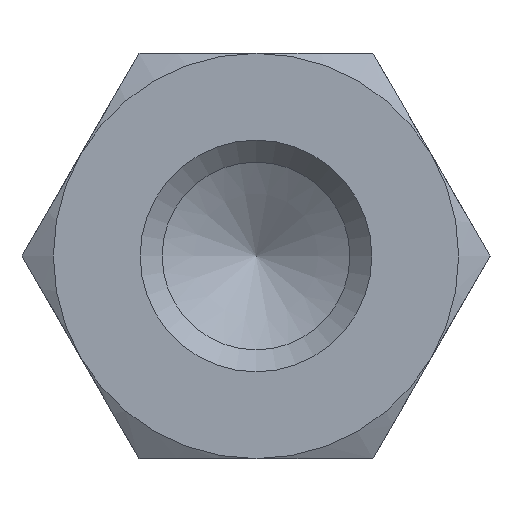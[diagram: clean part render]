
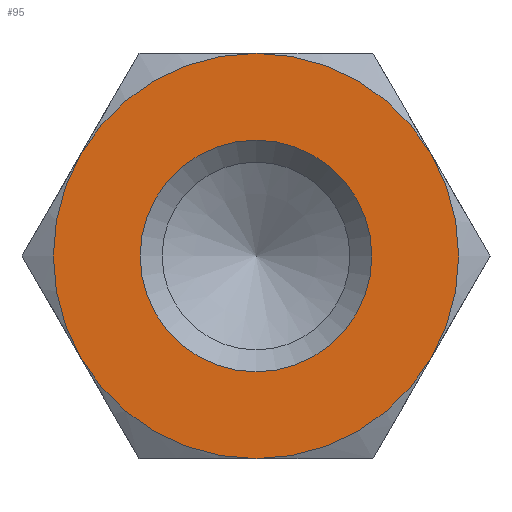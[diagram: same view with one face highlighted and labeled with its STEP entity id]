
A CAD part, left-side view. The second image highlights one B-rep face of the part: STEP entity #95.
In plain terms, the highlighted planar face has unit normal (-1, 0, 0).
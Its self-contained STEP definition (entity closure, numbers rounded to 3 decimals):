
#95 = ADVANCED_FACE( '', ( #147, #148 ), #149, .F. );
#147 = FACE_OUTER_BOUND( '', #206, .T. );
#148 = FACE_BOUND( '', #207, .T. );
#149 = PLANE( '', #208 );
#206 = EDGE_LOOP( '', ( #356, #357, #358, #359, #360, #361 ) );
#207 = EDGE_LOOP( '', ( #362 ) );
#208 = AXIS2_PLACEMENT_3D( '', #363, #364, #365 );
#356 = ORIENTED_EDGE( '', *, *, #440, .F. );
#357 = ORIENTED_EDGE( '', *, *, #425, .F. );
#358 = ORIENTED_EDGE( '', *, *, #441, .F. );
#359 = ORIENTED_EDGE( '', *, *, #437, .F. );
#360 = ORIENTED_EDGE( '', *, *, #442, .F. );
#361 = ORIENTED_EDGE( '', *, *, #443, .F. );
#362 = ORIENTED_EDGE( '', *, *, #439, .T. );
#363 = CARTESIAN_POINT( '', ( -20., 0., 0. ) );
#364 = DIRECTION( '', ( 1., 0., 0. ) );
#365 = DIRECTION( '', ( 0., 0., -1. ) );
#425 = EDGE_CURVE( '', #495, #493, #497, .T. );
#437 = EDGE_CURVE( '', #447, #506, #513, .T. );
#439 = EDGE_CURVE( '', #516, #516, #517, .T. );
#440 = EDGE_CURVE( '', #493, #486, #518, .T. );
#441 = EDGE_CURVE( '', #506, #495, #519, .T. );
#442 = EDGE_CURVE( '', #481, #447, #520, .T. );
#443 = EDGE_CURVE( '', #486, #481, #521, .T. );
#447 = VERTEX_POINT( '', #525 );
#481 = VERTEX_POINT( '', #595 );
#486 = VERTEX_POINT( '', #611 );
#493 = VERTEX_POINT( '', #632 );
#495 = VERTEX_POINT( '', #637 );
#497 = CIRCLE( '', #644, 3.5 );
#506 = VERTEX_POINT( '', #670 );
#513 = CIRCLE( '', #701, 3.5 );
#516 = VERTEX_POINT( '', #704 );
#517 = CIRCLE( '', #705, 2. );
#518 = CIRCLE( '', #706, 3.5 );
#519 = CIRCLE( '', #707, 3.5 );
#520 = CIRCLE( '', #708, 3.5 );
#521 = CIRCLE( '', #709, 3.5 );
#525 = CARTESIAN_POINT( '', ( -20., -3.031, 1.75 ) );
#595 = CARTESIAN_POINT( '', ( -20., 0., 3.5 ) );
#611 = CARTESIAN_POINT( '', ( -20., 3.031, 1.75 ) );
#632 = CARTESIAN_POINT( '', ( -20., 3.031, -1.75 ) );
#637 = CARTESIAN_POINT( '', ( -20., 0., -3.5 ) );
#644 = AXIS2_PLACEMENT_3D( '', #744, #745, #746 );
#670 = CARTESIAN_POINT( '', ( -20., -3.031, -1.75 ) );
#701 = AXIS2_PLACEMENT_3D( '', #749, #750, #751 );
#704 = CARTESIAN_POINT( '', ( -20., 2., 0. ) );
#705 = AXIS2_PLACEMENT_3D( '', #755, #756, #757 );
#706 = AXIS2_PLACEMENT_3D( '', #758, #759, #760 );
#707 = AXIS2_PLACEMENT_3D( '', #761, #762, #763 );
#708 = AXIS2_PLACEMENT_3D( '', #764, #765, #766 );
#709 = AXIS2_PLACEMENT_3D( '', #767, #768, #769 );
#744 = CARTESIAN_POINT( '', ( -20., 0., 0. ) );
#745 = DIRECTION( '', ( 1., 0., 0. ) );
#746 = DIRECTION( '', ( 0., 0., -1. ) );
#749 = CARTESIAN_POINT( '', ( -20., 0., 0. ) );
#750 = DIRECTION( '', ( 1., 0., 0. ) );
#751 = DIRECTION( '', ( 0., 0., -1. ) );
#755 = CARTESIAN_POINT( '', ( -20., 0., 0. ) );
#756 = DIRECTION( '', ( 1., 0., 0. ) );
#757 = DIRECTION( '', ( 0., 1., 0. ) );
#758 = CARTESIAN_POINT( '', ( -20., 0., 0. ) );
#759 = DIRECTION( '', ( 1., 0., 0. ) );
#760 = DIRECTION( '', ( 0., 0., -1. ) );
#761 = CARTESIAN_POINT( '', ( -20., 0., 0. ) );
#762 = DIRECTION( '', ( 1., 0., 0. ) );
#763 = DIRECTION( '', ( 0., 0., -1. ) );
#764 = CARTESIAN_POINT( '', ( -20., 0., 0. ) );
#765 = DIRECTION( '', ( 1., 0., 0. ) );
#766 = DIRECTION( '', ( 0., 0., -1. ) );
#767 = CARTESIAN_POINT( '', ( -20., 0., 0. ) );
#768 = DIRECTION( '', ( 1., 0., 0. ) );
#769 = DIRECTION( '', ( 0., 0., -1. ) );
